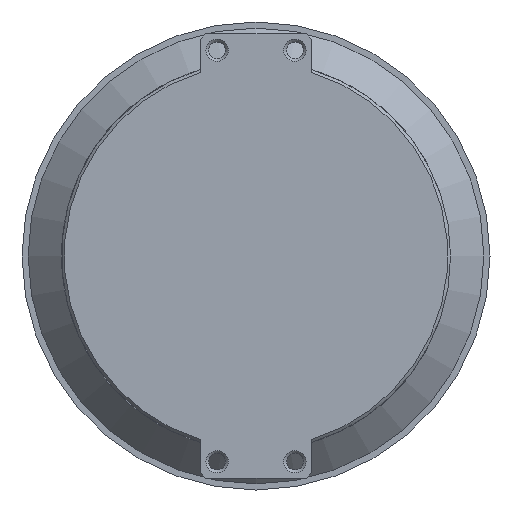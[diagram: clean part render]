
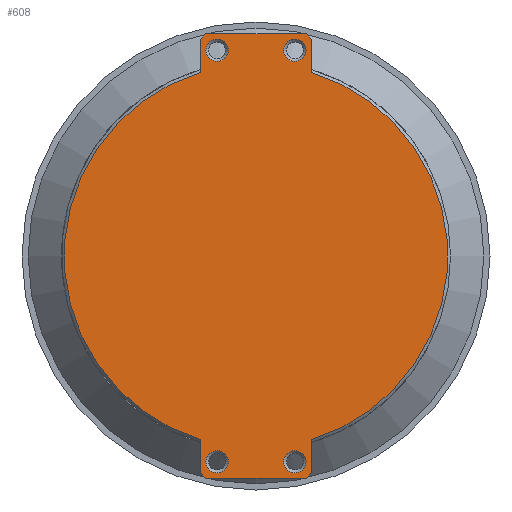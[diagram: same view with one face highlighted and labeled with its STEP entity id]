
A CAD part, front view. The second image highlights one B-rep face of the part: STEP entity #608.
In plain terms, the highlighted planar face has unit normal (0, -1, 0).
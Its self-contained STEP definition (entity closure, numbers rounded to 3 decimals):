
#20=PLANE('',#670);
#43=FACE_BOUND('',#205,.T.);
#44=FACE_BOUND('',#206,.T.);
#45=FACE_BOUND('',#207,.T.);
#46=FACE_BOUND('',#208,.T.);
#69=LINE('',#991,#101);
#70=LINE('',#994,#102);
#73=LINE('',#1000,#105);
#74=LINE('',#1002,#106);
#75=LINE('',#1004,#107);
#76=LINE('',#1005,#108);
#77=LINE('',#1007,#109);
#78=LINE('',#1009,#110);
#79=LINE('',#1011,#111);
#80=LINE('',#1012,#112);
#101=VECTOR('',#788,10.);
#102=VECTOR('',#791,10.);
#105=VECTOR('',#796,10.);
#106=VECTOR('',#797,10.);
#107=VECTOR('',#798,10.);
#108=VECTOR('',#799,10.);
#109=VECTOR('',#800,10.);
#110=VECTOR('',#801,10.);
#111=VECTOR('',#802,10.);
#112=VECTOR('',#803,10.);
#152=FACE_OUTER_BOUND('',#204,.T.);
#204=EDGE_LOOP('',(#482,#483,#484,#485,#486,#487,#488,#489,#490,#491,#492,
#493));
#205=EDGE_LOOP('',(#494));
#206=EDGE_LOOP('',(#495));
#207=EDGE_LOOP('',(#496));
#208=EDGE_LOOP('',(#497));
#255=CIRCLE('',#645,17.25);
#256=CIRCLE('',#647,17.25);
#267=CIRCLE('',#671,1.);
#268=CIRCLE('',#672,1.);
#269=CIRCLE('',#673,1.);
#270=CIRCLE('',#674,1.);
#304=VERTEX_POINT('',#937);
#305=VERTEX_POINT('',#941);
#306=VERTEX_POINT('',#947);
#307=VERTEX_POINT('',#951);
#319=VERTEX_POINT('',#989);
#320=VERTEX_POINT('',#993);
#322=VERTEX_POINT('',#999);
#323=VERTEX_POINT('',#1001);
#324=VERTEX_POINT('',#1003);
#325=VERTEX_POINT('',#1006);
#326=VERTEX_POINT('',#1008);
#327=VERTEX_POINT('',#1010);
#328=VERTEX_POINT('',#1013);
#329=VERTEX_POINT('',#1015);
#330=VERTEX_POINT('',#1017);
#331=VERTEX_POINT('',#1019);
#366=EDGE_CURVE('',#304,#305,#255,.T.);
#370=EDGE_CURVE('',#307,#306,#256,.T.);
#383=EDGE_CURVE('',#307,#319,#69,.T.);
#384=EDGE_CURVE('',#320,#306,#70,.T.);
#387=EDGE_CURVE('',#304,#322,#73,.T.);
#388=EDGE_CURVE('',#323,#322,#74,.T.);
#389=EDGE_CURVE('',#323,#324,#75,.T.);
#390=EDGE_CURVE('',#320,#324,#76,.T.);
#391=EDGE_CURVE('',#325,#319,#77,.T.);
#392=EDGE_CURVE('',#325,#326,#78,.T.);
#393=EDGE_CURVE('',#327,#326,#79,.T.);
#394=EDGE_CURVE('',#327,#305,#80,.T.);
#395=EDGE_CURVE('',#328,#328,#267,.T.);
#396=EDGE_CURVE('',#329,#329,#268,.T.);
#397=EDGE_CURVE('',#330,#330,#269,.T.);
#398=EDGE_CURVE('',#331,#331,#270,.T.);
#482=ORIENTED_EDGE('',*,*,#387,.T.);
#483=ORIENTED_EDGE('',*,*,#388,.F.);
#484=ORIENTED_EDGE('',*,*,#389,.T.);
#485=ORIENTED_EDGE('',*,*,#390,.F.);
#486=ORIENTED_EDGE('',*,*,#384,.T.);
#487=ORIENTED_EDGE('',*,*,#370,.F.);
#488=ORIENTED_EDGE('',*,*,#383,.T.);
#489=ORIENTED_EDGE('',*,*,#391,.F.);
#490=ORIENTED_EDGE('',*,*,#392,.T.);
#491=ORIENTED_EDGE('',*,*,#393,.F.);
#492=ORIENTED_EDGE('',*,*,#394,.T.);
#493=ORIENTED_EDGE('',*,*,#366,.F.);
#494=ORIENTED_EDGE('',*,*,#395,.F.);
#495=ORIENTED_EDGE('',*,*,#396,.F.);
#496=ORIENTED_EDGE('',*,*,#397,.F.);
#497=ORIENTED_EDGE('',*,*,#398,.F.);
#608=ADVANCED_FACE('',(#152,#43,#44,#45,#46),#20,.F.);
#645=AXIS2_PLACEMENT_3D('',#942,#738,#739);
#647=AXIS2_PLACEMENT_3D('',#955,#742,#743);
#670=AXIS2_PLACEMENT_3D('',#998,#794,#795);
#671=AXIS2_PLACEMENT_3D('',#1014,#804,#805);
#672=AXIS2_PLACEMENT_3D('',#1016,#806,#807);
#673=AXIS2_PLACEMENT_3D('',#1018,#808,#809);
#674=AXIS2_PLACEMENT_3D('',#1020,#810,#811);
#738=DIRECTION('center_axis',(0.,1.,0.));
#739=DIRECTION('ref_axis',(-1.,0.,0.));
#742=DIRECTION('center_axis',(0.,1.,0.));
#743=DIRECTION('ref_axis',(-1.,0.,0.));
#788=DIRECTION('',(0.,0.,1.));
#791=DIRECTION('',(0.,0.,1.));
#794=DIRECTION('center_axis',(0.,1.,0.));
#795=DIRECTION('ref_axis',(0.,0.,-1.));
#796=DIRECTION('',(0.,0.,-1.));
#797=DIRECTION('',(-0.707,0.,0.707));
#798=DIRECTION('',(1.,0.,0.));
#799=DIRECTION('',(-0.707,0.,-0.707));
#800=DIRECTION('',(0.707,0.,-0.707));
#801=DIRECTION('',(-1.,0.,0.));
#802=DIRECTION('',(0.707,0.,0.707));
#803=DIRECTION('',(0.,0.,-1.));
#804=DIRECTION('center_axis',(0.,-1.,0.));
#805=DIRECTION('ref_axis',(0.,0.,1.));
#806=DIRECTION('center_axis',(0.,-1.,0.));
#807=DIRECTION('ref_axis',(0.,0.,1.));
#808=DIRECTION('center_axis',(0.,-1.,0.));
#809=DIRECTION('ref_axis',(0.,0.,1.));
#810=DIRECTION('center_axis',(0.,-1.,0.));
#811=DIRECTION('ref_axis',(0.,0.,1.));
#937=CARTESIAN_POINT('',(-5.,0.,-16.509));
#941=CARTESIAN_POINT('',(-5.,0.,16.509));
#942=CARTESIAN_POINT('Origin',(0.,0.,0.));
#947=CARTESIAN_POINT('',(5.,0.,-16.509));
#951=CARTESIAN_POINT('',(5.,0.,16.509));
#955=CARTESIAN_POINT('Origin',(0.,0.,0.));
#989=CARTESIAN_POINT('',(5.,0.,19.5));
#991=CARTESIAN_POINT('',(5.,0.,0.));
#993=CARTESIAN_POINT('',(5.,0.,-19.5));
#994=CARTESIAN_POINT('',(5.,0.,0.));
#998=CARTESIAN_POINT('Origin',(0.,0.,0.));
#999=CARTESIAN_POINT('',(-5.,0.,-19.5));
#1000=CARTESIAN_POINT('',(-5.,0.,0.));
#1001=CARTESIAN_POINT('',(-4.5,0.,-20.));
#1002=CARTESIAN_POINT('',(-8.5,0.,-16.));
#1003=CARTESIAN_POINT('',(4.5,0.,-20.));
#1004=CARTESIAN_POINT('',(0.,0.,-20.));
#1005=CARTESIAN_POINT('',(8.5,0.,-16.));
#1006=CARTESIAN_POINT('',(4.5,0.,20.));
#1007=CARTESIAN_POINT('',(8.5,0.,16.));
#1008=CARTESIAN_POINT('',(-4.5,0.,20.));
#1009=CARTESIAN_POINT('',(0.,0.,20.));
#1010=CARTESIAN_POINT('',(-5.,0.,19.5));
#1011=CARTESIAN_POINT('',(-8.5,0.,16.));
#1012=CARTESIAN_POINT('',(-5.,0.,0.));
#1013=CARTESIAN_POINT('',(3.5,0.,17.5));
#1014=CARTESIAN_POINT('Origin',(3.5,0.,18.5));
#1015=CARTESIAN_POINT('',(-3.5,0.,17.5));
#1016=CARTESIAN_POINT('Origin',(-3.5,0.,18.5));
#1017=CARTESIAN_POINT('',(3.5,0.,-19.5));
#1018=CARTESIAN_POINT('Origin',(3.5,0.,-18.5));
#1019=CARTESIAN_POINT('',(-3.5,0.,-19.5));
#1020=CARTESIAN_POINT('Origin',(-3.5,0.,-18.5));
